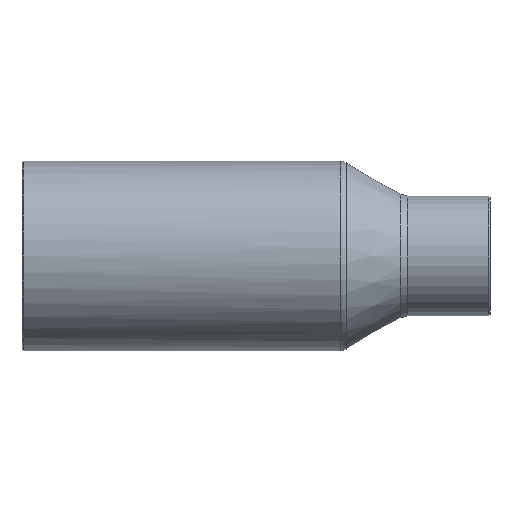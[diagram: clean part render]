
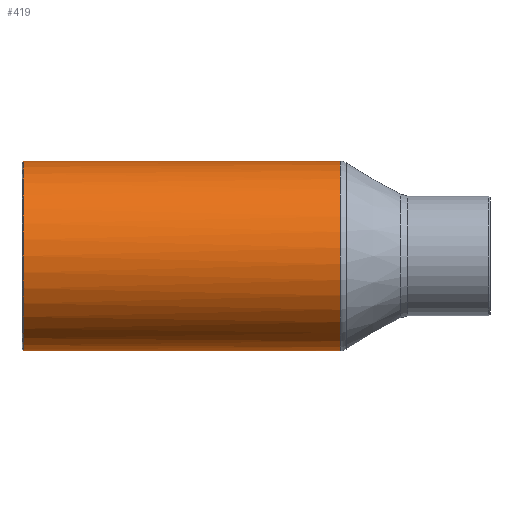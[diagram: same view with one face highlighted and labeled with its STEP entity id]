
A CAD part, front view. The second image highlights one B-rep face of the part: STEP entity #419.
In plain terms, the highlighted cylindrical face has radius 12.7 mm (diameter 25.4 mm), a full revolution.
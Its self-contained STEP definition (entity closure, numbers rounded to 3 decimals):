
#121=CARTESIAN_POINT('',(0.,0.0,12.7));
#122=VERTEX_POINT('',#121);
#150=CARTESIAN_POINT('',(0.,0.0,-12.7));
#151=VERTEX_POINT('',#150);
#345=CARTESIAN_POINT('',(-29.5,12.7,0.));
#346=VERTEX_POINT('',#345);
#347=CARTESIAN_POINT('',(-29.5,0.0,0.0));
#348=DIRECTION('',(-1.0,0.0,0.0));
#349=DIRECTION('',(0.0,-1.0,0.0));
#350=AXIS2_PLACEMENT_3D('',#347,#348,#349);
#351=CIRCLE('',#350,12.7);
#352=EDGE_CURVE('',#346,#346,#351,.T.);
#377=CARTESIAN_POINT('',(1.6,0.0,0.0));
#378=DIRECTION('',(1.0,0.0,0.0));
#379=DIRECTION('',(0.0,1.0,0.0));
#380=AXIS2_PLACEMENT_3D('',#377,#378,#379);
#381=CYLINDRICAL_SURFACE('',#380,12.7);
#382=CARTESIAN_POINT('',(12.86,10.081,7.724));
#383=VERTEX_POINT('',#382);
#384=CARTESIAN_POINT('',(12.86,10.081,-7.724));
#385=VERTEX_POINT('',#384);
#386=CARTESIAN_POINT('',(12.86,0.0,0.0));
#387=DIRECTION('',(1.0,0.0,0.0));
#388=DIRECTION('',(0.0,-1.0,0.0));
#389=AXIS2_PLACEMENT_3D('',#386,#387,#388);
#390=CIRCLE('',#389,12.7);
#391=EDGE_CURVE('',#383,#385,#390,.T.);
#392=ORIENTED_EDGE('',*,*,#391,.F.);
#393=CARTESIAN_POINT('',(0.0,0.0,0.0));
#394=DIRECTION('',(-0.617,0.787,0.0));
#395=DIRECTION('',(0.787,0.617,0.0));
#396=AXIS2_PLACEMENT_3D('',#393,#394,#395);
#397=ELLIPSE('',#396,20.585,12.7);
#398=EDGE_CURVE('',#122,#383,#397,.T.);
#399=ORIENTED_EDGE('',*,*,#398,.F.);
#400=CARTESIAN_POINT('',(0.0,0.0,0.0));
#401=DIRECTION('',(0.617,0.787,0.0));
#402=DIRECTION('',(-0.787,0.617,0.0));
#403=AXIS2_PLACEMENT_3D('',#400,#401,#402);
#404=ELLIPSE('',#403,20.585,12.7);
#405=EDGE_CURVE('',#151,#122,#404,.T.);
#406=ORIENTED_EDGE('',*,*,#405,.F.);
#407=CARTESIAN_POINT('',(0.0,0.0,0.0));
#408=DIRECTION('',(-0.617,0.787,0.0));
#409=DIRECTION('',(0.787,0.617,0.0));
#410=AXIS2_PLACEMENT_3D('',#407,#408,#409);
#411=ELLIPSE('',#410,20.585,12.7);
#412=EDGE_CURVE('',#385,#151,#411,.T.);
#413=ORIENTED_EDGE('',*,*,#412,.F.);
#414=EDGE_LOOP('',(#392,#399,#406,#413));
#415=FACE_OUTER_BOUND('',#414,.T.);
#416=ORIENTED_EDGE('',*,*,#352,.F.);
#417=EDGE_LOOP('',(#416));
#418=FACE_BOUND('',#417,.T.);
#419=ADVANCED_FACE('',(#415,#418),#381,.T.);
